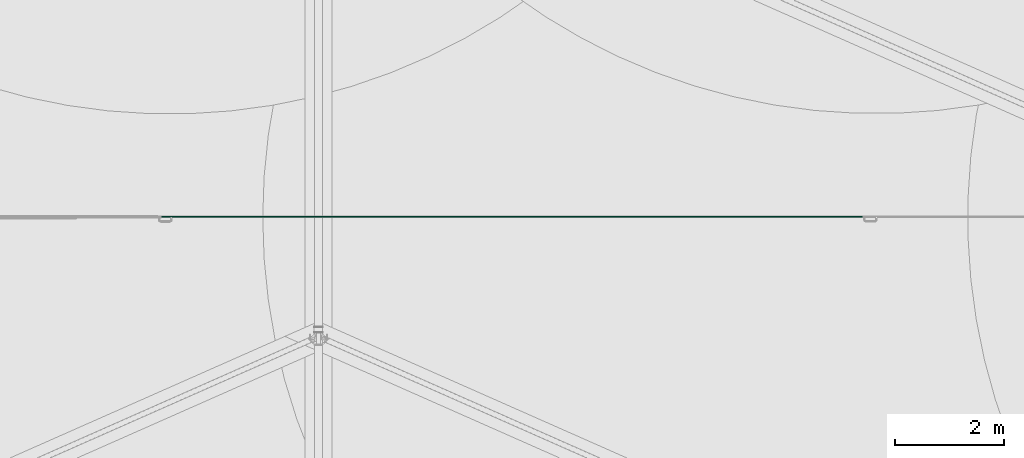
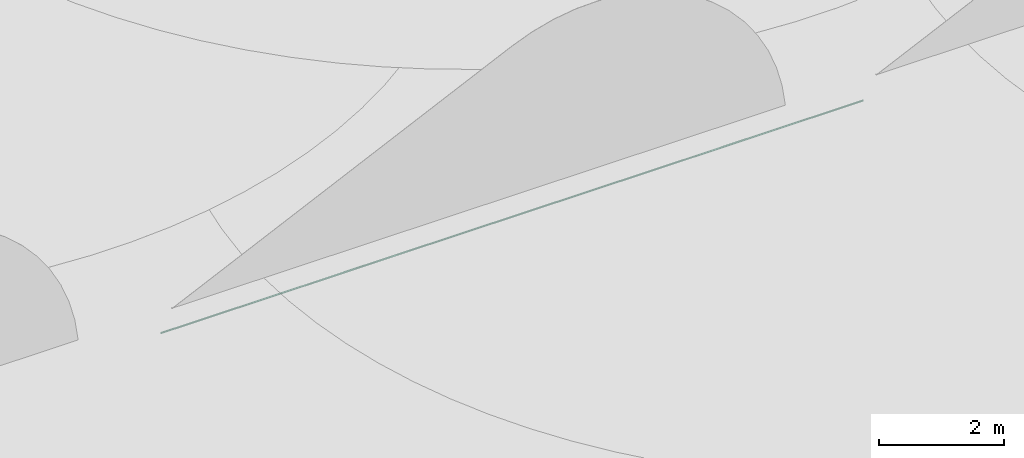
# One storey, part 39 of 166: 1 flow segment.
"""IFC2X3 building model written with IfcOpenShell, lengths in metres."""

from ifc_helpers import new_model, entity, si_unit, converted_unit, direction, frame, origin, origin_2d_with_axis, place, context, subcontext, project, spatial, circle, extrude, type_object, element, save


model = new_model("IFC2X3")

# Units and contexts
model_context = context("Model", 3, precision=1e-05, world=origin(), true_north=direction((6.123233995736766e-17, 1.0)))
body_context = subcontext(model_context, "Body", "Model", "MODEL_VIEW")
ifc_project = project(units=[si_unit("LENGTHUNIT", "METRE"), converted_unit("PLANEANGLEUNIT", "DEGREE", entity("IfcPlaneAngleMeasure", 0.017453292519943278), si_unit("PLANEANGLEUNIT", "RADIAN"), dimensions=[0, 0, 0, 0, 0, 0, 0]), si_unit("AREAUNIT", "SQUARE_METRE")], contexts=[model_context])

# Site, building, storey
site_placement = place(None, origin())
site = spatial("IfcSite", under=ifc_project, at=site_placement, Name="Default", CompositionType="ELEMENT")
building_placement = place(site_placement, origin())
building = spatial("IfcBuilding", under=site, at=building_placement, Name="CASA DE ACOLHIDA PARA IDOSOS", CompositionType="ELEMENT")
storey_placement = place(building_placement, frame((0.0, 0.0, -1.7499999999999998)))
storey = spatial("IfcBuildingStorey", under=building, at=storey_placement, Name="IMPLANTAÇÃO DRENAGEM", CompositionType="ELEMENT", Elevation=-1.7499999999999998)

# Flow segment
pipe_segment_type = type_object("IfcPipeSegmentType", Name="Tipos de tubos:AF_Tubo Marrom Soldável", PredefinedType="NOTDEFINED")
flow_segment_placement = place(storey_placement, origin())
element("IfcFlowSegment", 1, at=flow_segment_placement, inside=storey, type_object=pipe_segment_type, Name="Tipos de tubos:AF_Tubo Marrom Soldável", ObjectType="Tipos de tubos:AF_Tubo Marrom Soldável", context=body_context, shape_type="SweptSolid", body=[
    extrude(circle(Radius=0.0125, at=origin_2d_with_axis()), frame((20.064753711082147, 36.05494207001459, -0.19999999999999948), z_axis=(1.0, 0.0, 0.0), x_axis=(0.0, -1.0, 0.0)), (0.0, 0.0, 1.0), 12.928397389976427),
])

save(model, "model.ifc")
